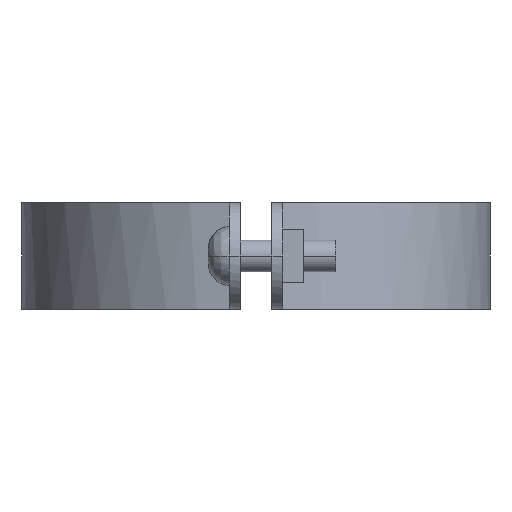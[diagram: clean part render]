
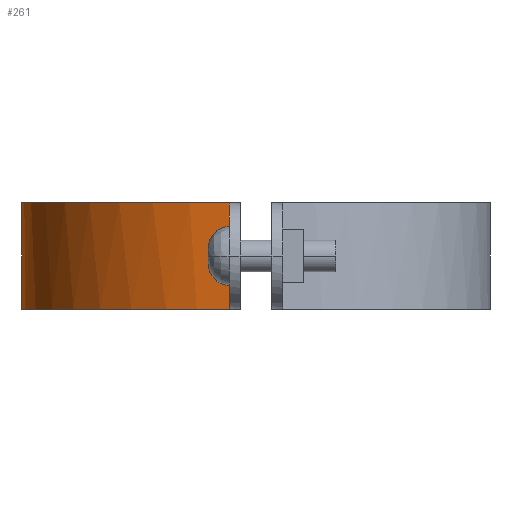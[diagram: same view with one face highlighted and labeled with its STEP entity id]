
A CAD part, left-side view. The second image highlights one B-rep face of the part: STEP entity #261.
In plain terms, the highlighted free-form (B-spline) face has degree [3, 1] with [4, 2] control points.
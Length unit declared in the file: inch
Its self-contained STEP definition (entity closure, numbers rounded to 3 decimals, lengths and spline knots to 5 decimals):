
#261=ADVANCED_FACE('',(#519),#520,.T.);
#519=FACE_OUTER_BOUND('',#1080,.T.);
#520=B_SPLINE_SURFACE_WITH_KNOTS('',3,1,((#1081,#1082),(#1083,#1084),(#1085,#1086),(#1087,#1088)),.UNSPECIFIED.,.F.,.F.,.F.,(4,4),(2,2),(-1.0,-0.0),(0.0,1.25),.UNSPECIFIED.);
#1080=EDGE_LOOP('',(#1783,#1784,#1785,#1786));
#1081=CARTESIAN_POINT('',(3.46808,5.45088,0.0));
#1082=CARTESIAN_POINT('',(3.46808,5.45088,1.25));
#1083=CARTESIAN_POINT('',(2.07045,5.45088,0.0));
#1084=CARTESIAN_POINT('',(2.07045,5.45088,1.25));
#1085=CARTESIAN_POINT('',(0.89517,4.40235,0.0));
#1086=CARTESIAN_POINT('',(0.89517,4.40235,1.25));
#1087=CARTESIAN_POINT('',(0.73635,3.01377,0.0));
#1088=CARTESIAN_POINT('',(0.73635,3.01377,1.25));
#1783=ORIENTED_EDGE('',*,*,#2204,.T.);
#1784=ORIENTED_EDGE('',*,*,#2142,.T.);
#1785=ORIENTED_EDGE('',*,*,#2182,.T.);
#1786=ORIENTED_EDGE('',*,*,#2148,.F.);
#2142=EDGE_CURVE('',#2495,#2502,#2504,.T.);
#2148=EDGE_CURVE('',#2511,#2513,#2514,.T.);
#2182=EDGE_CURVE('',#2502,#2513,#2564,.T.);
#2204=EDGE_CURVE('',#2511,#2495,#2587,.T.);
#2495=VERTEX_POINT('',#3081);
#2502=VERTEX_POINT('',#3095);
#2504=LINE('',#3098,#3099);
#2511=VERTEX_POINT('',#3109);
#2513=VERTEX_POINT('',#3112);
#2514=LINE('',#3113,#3114);
#2564=B_SPLINE_CURVE_WITH_KNOTS('',3,(#3229,#3230,#3231,#3232),.UNSPECIFIED.,.F.,.F.,(4,4),(0.0,1.0),.UNSPECIFIED.);
#2587=B_SPLINE_CURVE_WITH_KNOTS('',3,(#3284,#3285,#3286,#3287),.UNSPECIFIED.,.F.,.F.,(4,4),(-1.0,-0.0),.UNSPECIFIED.);
#3081=CARTESIAN_POINT('',(0.73635,3.01377,0.00011));
#3095=CARTESIAN_POINT('',(0.73635,3.01377,1.24992));
#3098=CARTESIAN_POINT('',(0.73635,3.01377,0.0));
#3099=VECTOR('',#3472,1.0);
#3109=CARTESIAN_POINT('',(3.46808,5.45088,0.00011));
#3112=CARTESIAN_POINT('',(3.46808,5.45088,1.24992));
#3113=CARTESIAN_POINT('',(3.46808,5.45088,0.0));
#3114=VECTOR('',#3477,1.0);
#3229=CARTESIAN_POINT('',(0.73635,3.01377,1.24992));
#3230=CARTESIAN_POINT('',(0.89517,4.40235,1.24992));
#3231=CARTESIAN_POINT('',(2.07045,5.45088,1.24992));
#3232=CARTESIAN_POINT('',(3.46808,5.45088,1.24992));
#3284=CARTESIAN_POINT('',(3.46808,5.45088,0.00011));
#3285=CARTESIAN_POINT('',(2.07045,5.45088,0.00011));
#3286=CARTESIAN_POINT('',(0.89517,4.40235,0.00011));
#3287=CARTESIAN_POINT('',(0.73635,3.01377,0.00011));
#3472=DIRECTION('',(0.0,0.0,1.0));
#3477=DIRECTION('',(0.0,0.0,1.0));
